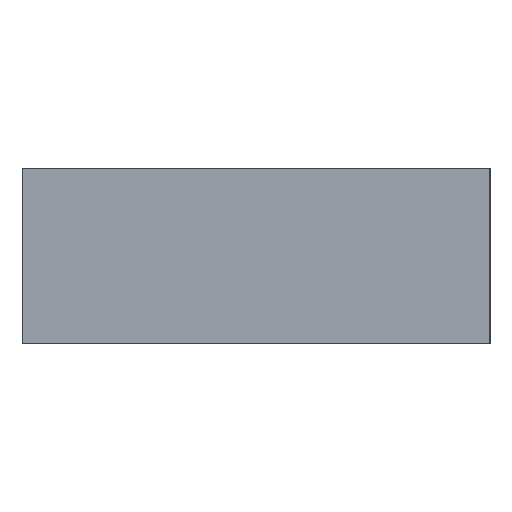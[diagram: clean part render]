
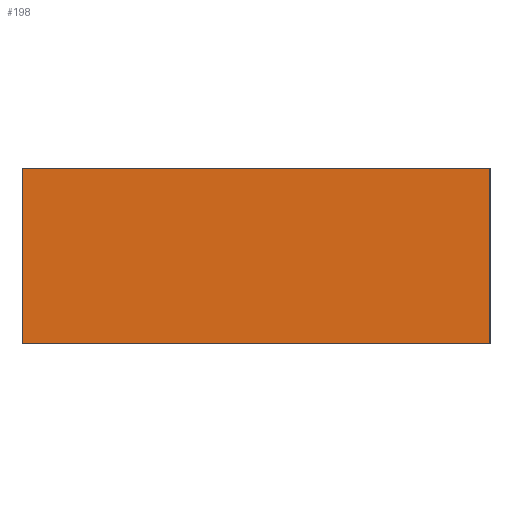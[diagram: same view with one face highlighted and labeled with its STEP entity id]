
A CAD part, left-side view. The second image highlights one B-rep face of the part: STEP entity #198.
In plain terms, the highlighted planar face has unit normal (-1, 0, 0).
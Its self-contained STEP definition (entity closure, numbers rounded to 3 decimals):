
#198=ADVANCED_FACE('',(#633),#635,.T.);
#633=FACE_BOUND('',#634,.T.);
#634=EDGE_LOOP('',(#966,#967,#968,#969));
#635=PLANE('',#636);
#636=AXIS2_PLACEMENT_3D('',#637,#638,#639);
#637=CARTESIAN_POINT('',(-1.6,-0.8,0.));
#638=DIRECTION('',(-1.,0.,0.));
#639=DIRECTION('',(0.,0.,1.));
#966=ORIENTED_EDGE('',*,*,#1175,.T.);
#967=ORIENTED_EDGE('',*,*,#1188,.T.);
#968=ORIENTED_EDGE('',*,*,#1184,.F.);
#969=ORIENTED_EDGE('',*,*,#1189,.F.);
#1175=EDGE_CURVE('',#1313,#1311,#1314,.T.);
#1184=EDGE_CURVE('',#1327,#1329,#1330,.T.);
#1188=EDGE_CURVE('',#1311,#1329,#1335,.T.);
#1189=EDGE_CURVE('',#1313,#1327,#1336,.T.);
#1311=VERTEX_POINT('',#1552);
#1313=VERTEX_POINT('',#1556);
#1314=LINE('',#1557,#1558);
#1327=VERTEX_POINT('',#1586);
#1329=VERTEX_POINT('',#1590);
#1330=LINE('',#1591,#1592);
#1335=LINE('',#1604,#1605);
#1336=LINE('',#1607,#1608);
#1552=CARTESIAN_POINT('',(-1.6,-0.8,0.6));
#1556=CARTESIAN_POINT('',(-1.6,-0.8,0.));
#1557=CARTESIAN_POINT('',(-1.6,-0.8,0.));
#1558=VECTOR('',#1559,1.);
#1559=DIRECTION('',(0.,0.,1.));
#1586=CARTESIAN_POINT('',(-1.6,0.8,0.));
#1590=CARTESIAN_POINT('',(-1.6,0.8,0.6));
#1591=CARTESIAN_POINT('',(-1.6,0.8,0.));
#1592=VECTOR('',#1593,1.);
#1593=DIRECTION('',(0.,0.,1.));
#1604=CARTESIAN_POINT('',(-1.6,-0.8,0.6));
#1605=VECTOR('',#1606,1.);
#1606=DIRECTION('',(0.,1.,0.));
#1607=CARTESIAN_POINT('',(-1.6,-0.8,0.));
#1608=VECTOR('',#1609,1.);
#1609=DIRECTION('',(0.,1.,0.));
